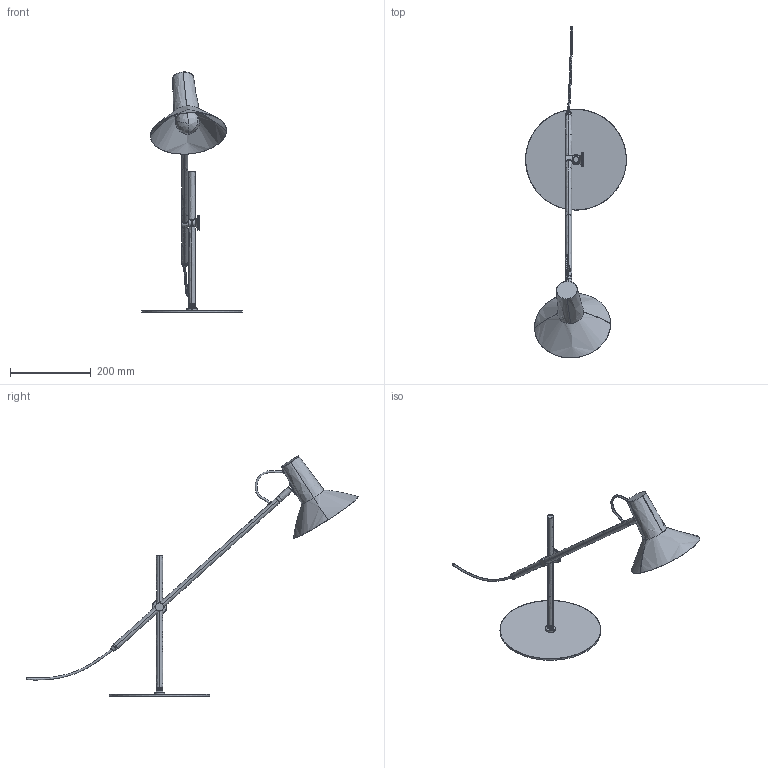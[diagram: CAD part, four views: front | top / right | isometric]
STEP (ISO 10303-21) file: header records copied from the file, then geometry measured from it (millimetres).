
FILE_DESCRIPTION (( 'STEP AP214' ), '1' );
FILE_NAME ('HUDO_S1366.STEP', '2026-06-16T15:11:33', ( '' ), ( '' ), 'SwSTEP 2.0', 'SolidWorks 2023', '' );
FILE_SCHEMA (( 'AUTOMOTIVE_DESIGN' ));
Length unit declared in the file: millimetre
Products named in the file (1): HUDO_S1366
Bounding box: 249.92 x 823.5 x 595.62 mm (x, y, z)
Surface area: 337680.1 mm2 (no closed solid volume)
Topology: 0 solids, 25 shells, 742 faces, 2035 edges, 1334 vertices
Faces by surface type: bspline 453, plane 289
Entity records: 34271 total; most frequent: CARTESIAN_POINT 21834, ORIENTED_EDGE 4028, EDGE_CURVE 2029, VERTEX_POINT 1334, B_SPLINE_CURVE_WITH_KNOTS 1312, EDGE_LOOP 777, ADVANCED_FACE 742, FACE_OUTER_BOUND 742
